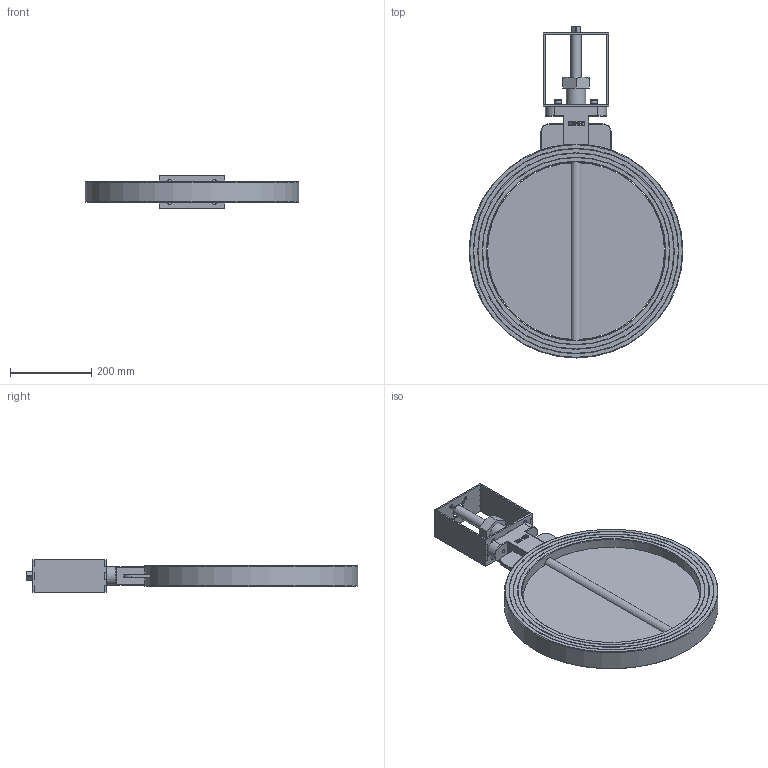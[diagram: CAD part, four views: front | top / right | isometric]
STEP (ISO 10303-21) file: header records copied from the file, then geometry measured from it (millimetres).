
FILE_DESCRIPTION(/* description */ (''),/* implementation_level */ '2;1');
FILE_NAME(/* name */ 'C:\Users\miv\Desktop\Typ 5k DN450\Typ 5k DN450.stp',/* time_stamp */ '2015-09-16T10:19:47+02:00',/* author */ ('Technik-3D'),/* organization */ (''),/* preprocessor_version */ 'ST-DEVELOPER v15.6',/* originating_system */ 'Autodesk Inventor 2015',/* authorisation */ '');
FILE_SCHEMA (('AUTOMOTIVE_DESIGN { 1 0 10303 214 3 1 1 }'));
Length unit declared in the file: millimetre
Products named in the file (13): Gussring DN450; Stopfbuchse d=25 MS; Graphitbuchse d=25; ISO 49 Kappe T1 1 1_2; Welle oben; Oberteil Konsole F05, F07, ST; Seitenteil F05, F07; Unterteil Konsole F04,05,07 (5k200-R4-STP); Konsole F05-07; DN450 Ronde; DIN 127 - A 10; DIN 912 - M10 x 1,5 x 25 x 21,25; Typ 5k DN450
Bounding box: 525 x 815 x 80 mm (x, y, z)
Volume: 5060130.4 mm3; surface area: 886582.3 mm2
Topology: 15 solids, 15 shells, 404 faces, 1015 edges, 667 vertices
Faces by surface type: plane 225, cylinder 110, bspline 33, cone 26, torus 10
Full cylindrical faces by diameter (mm): 7 x4, 8.376 x2, 9 x4, 10 x2, 11 x4, 12 x2, 16 x2, 25 x3, 25.5 x3, 30 x1, 34.5 x1, 35 x3, 37 x1, 39 x1, 47.5 x1, 52 x1, 434.5 x1, 438 x1, 458.75 x2, 460.75 x2, 480.5 x2, 482.5 x2, 502.25 x2, 504.25 x2, 525 x1
Entity records: 10678 total; most frequent: CARTESIAN_POINT 2341, DIRECTION 1602, ORIENTED_EDGE 1576, EDGE_CURVE 788, AXIS2_PLACEMENT_3D 569, VERTEX_POINT 552, EDGE_LOOP 486, LINE 464
